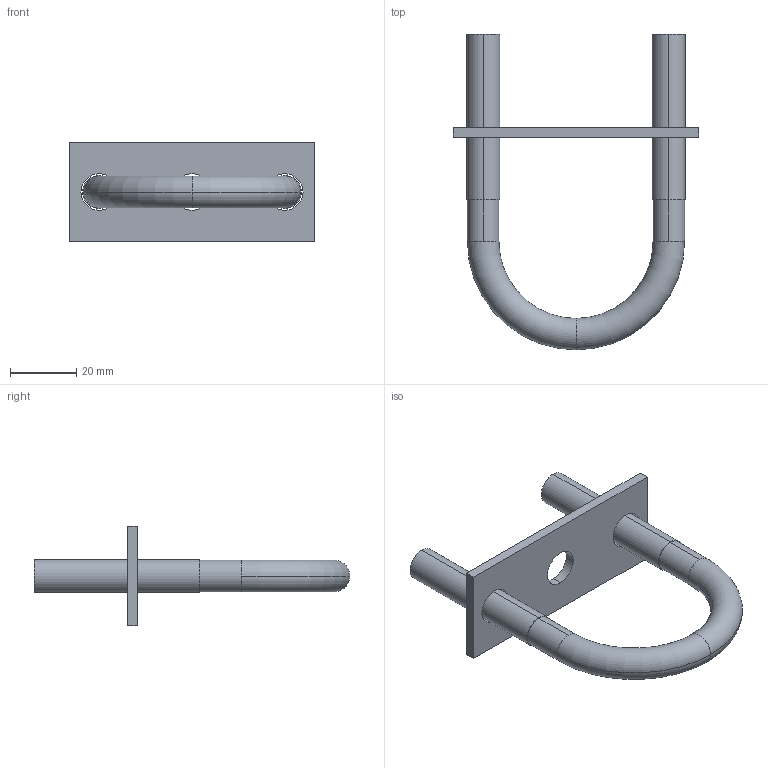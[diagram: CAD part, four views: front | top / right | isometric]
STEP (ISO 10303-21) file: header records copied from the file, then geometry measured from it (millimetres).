
FILE_DESCRIPTION((''),'2;1');
FILE_NAME('2014412200_ASM','2017-05-12T',('Administrator'),(''),'PRO/ENGINEER BY PARAMETRIC TECHNOLOGY CORPORATION, 2009360','PRO/ENGINEER BY PARAMETRIC TECHNOLOGY CORPORATION, 2009360','');
FILE_SCHEMA(('AUTOMOTIVE_DESIGN_CC2 { 1 2 10303 214 -1 1 5 2 }'));
Length unit declared in the file: millimetre
Products named in the file (3): MANIFOLD_SOLID_BREP_119; MANIFOLD_SOLID_BREP_120; 2014412200_ASM
Assembly tree (2 placements, depth 2):
  2014412200_ASM
    MANIFOLD_SOLID_BREP_119
    MANIFOLD_SOLID_BREP_120
Bounding box: 74 x 95.25 x 30 mm (x, y, z)
Volume: 21665.9 mm3; surface area: 11490.2 mm2
Topology: 2 solids, 2 shells, 28 faces, 64 edges, 42 vertices
Faces by surface type: cylinder 14, plane 10, torus 4
Entity records: 1099 total; most frequent: DIRECTION 168, CARTESIAN_POINT 139, ORIENTED_EDGE 128, AXIS2_PLACEMENT_3D 71, PRESENTATION_STYLE_ASSIGNMENT 66, STYLED_ITEM 66, CURVE_STYLE 64, EDGE_CURVE 64
